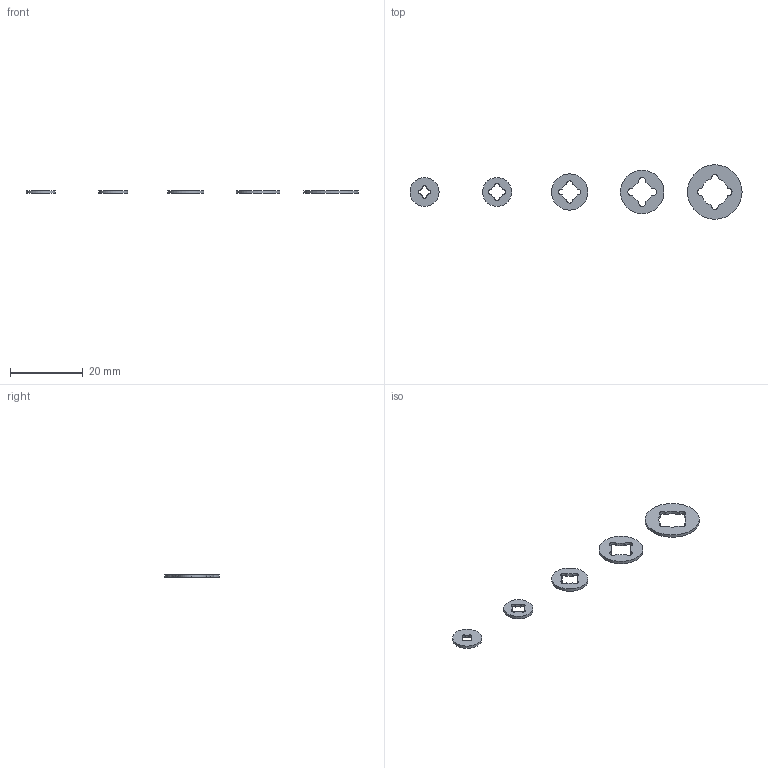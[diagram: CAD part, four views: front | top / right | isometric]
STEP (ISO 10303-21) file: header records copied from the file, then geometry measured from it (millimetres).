
FILE_DESCRIPTION (( 'STEP AP214' ), '1' );
FILE_NAME ('KC-147 Series.STEP', '2025-03-25T01:36:21', ( '' ), ( '' ), 'SwSTEP 2.0', 'SolidWorks 2022', '' );
FILE_SCHEMA (( 'AUTOMOTIVE_DESIGN' ));
Length unit declared in the file: millimetre
Products named in the file (6): KC-147-4; KC-147-1; KC-147-5; KC-147-2; KC-147 Series; KC-147-3
Assembly tree (5 placements, depth 2):
  KC-147 Series
    KC-147-1
    KC-147-2
    KC-147-3
    KC-147-4
    KC-147-5
Bounding box: 91.5 x 15 x 0.8 mm (x, y, z)
Volume: 277.4 mm3; surface area: 905.4 mm2
Topology: 5 solids, 5 shells, 101 faces, 273 edges, 182 vertices
Faces by surface type: cylinder 59, plane 42
Entity records: 3487 total; most frequent: DIRECTION 609, CARTESIAN_POINT 564, ORIENTED_EDGE 546, EDGE_CURVE 273, AXIS2_PLACEMENT_3D 227, VERTEX_POINT 182, LINE 155, VECTOR 155
